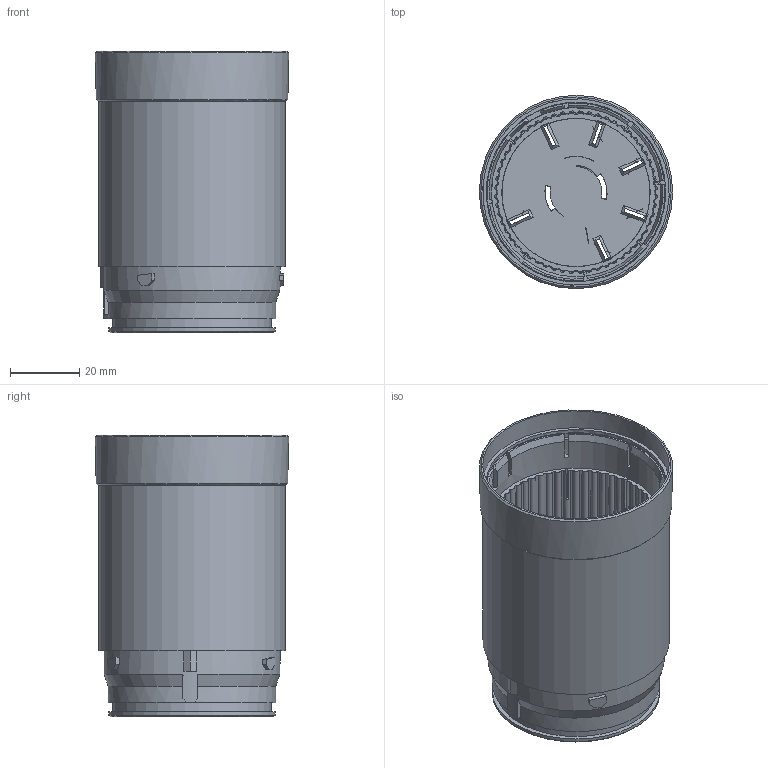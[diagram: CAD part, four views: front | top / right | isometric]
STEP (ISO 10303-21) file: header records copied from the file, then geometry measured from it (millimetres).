
FILE_DESCRIPTION (( 'STEP AP214' ), '1' );
FILE_NAME ('28250xxxxxx - BR50 Module.STEP', '2015-02-20T09:39:31', ( '' ), ( '' ), 'SwSTEP 2.0', 'SolidWorks 2012', '' );
FILE_SCHEMA (( 'AUTOMOTIVE_DESIGN' ));
Length unit declared in the file: millimetre
Products named in the file (1): 28250xxxxxx - BR50 Module
Bounding box: 55.98 x 55.98 x 81.5 mm (x, y, z)
Surface area: 31240.7 mm2 (no closed solid volume)
Topology: 0 solids, 6 shells, 314 faces, 1068 edges, 746 vertices
Faces by surface type: plane 165, bspline 77, cylinder 65, cone 7
Full cylindrical faces by diameter (mm): 48.5 x2, 49 x1, 51 x1, 52 x2, 54 x2
Entity records: 15031 total; most frequent: CARTESIAN_POINT 3292, ORIENTED_EDGE 1693, DIRECTION 1560, EDGE_CURVE 1046, VERTEX_POINT 738, VECTOR 634, LINE 634, AXIS2_PLACEMENT_3D 463
